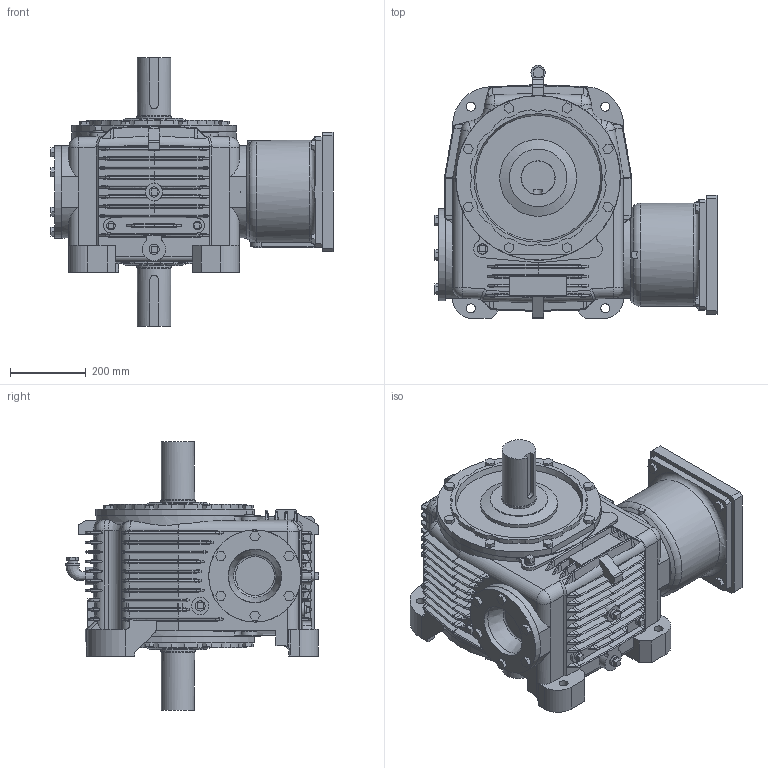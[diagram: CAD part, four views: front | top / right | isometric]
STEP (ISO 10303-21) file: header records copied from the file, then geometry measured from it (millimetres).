
FILE_DESCRIPTION(/* description */ ('Unknown'),/* implementation_level */ '2;1');
FILE_NAME(/* name */ 'V80CB-7CD01SBD-',/* time_stamp */ '2024-11-21T16:17:29-05:00',/* author */ ('Unknown'),/* organization */ ('Unknown'),/* preprocessor_version */ 'ST-DEVELOPER v19.4',/* originating_system */ 'Solid Edge',/* authorisation */ 'Unknown');
FILE_SCHEMA (('TECHNICAL_DATA_PACKAGING','AUTOMOTIVE_DESIGN {1 0 10303 214 3 1 1}'));
Products named in the file (7): V80CB-7CD01SBD-; 80-5-CP; 80-OUTS; 80-WCAP; 80-SM20-4-CP; MP5D-01-CP; KM900-S-48
Assembly tree (7 placements, depth 2):
  V80CB-7CD01SBD-
    80-5-CP
    80-OUTS  x2
    80-WCAP
    80-SM20-4-CP
    MP5D-01-CP
    KM900-S-48
Bounding box: 746.43 x 669.4 x 711.17 mm (x, y, z)
Volume: 84806903.5 mm3; surface area: 4124514.3 mm2
Topology: 7 solids, 8 shells, 1718 faces, 4175 edges, 2568 vertices
Faces by surface type: plane 905, bspline 563, cylinder 229, cone 11, sphere 6, torus 4
Full cylindrical faces by diameter (mm): 0.254 x7, 13.835 x4, 15.875 x8, 22.225 x2, 23.812 x10, 26.924 x6, 38.1 x1, 45.72 x4, 48 x1, 50.787 x1, 50.8 x1, 53.975 x1, 88.887 x2, 90.488 x2, 105.2 x1, 106.68 x1, 133 x1, 152.4 x2, 154 x1, 177.8 x2, 177.825 x2, 178.308 x2, 178.333 x1, 203.2 x2, 243.84 x1, 250 x1, 254 x1, 269.875 x2, 435.61 x2
Entity records: 57991 total; most frequent: CARTESIAN_POINT 22068, ORIENTED_EDGE 7590, DIRECTION 5929, EDGE_CURVE 3795, VERTEX_POINT 2363, LINE 2273, VECTOR 2273, AXIS2_PLACEMENT_3D 1828
